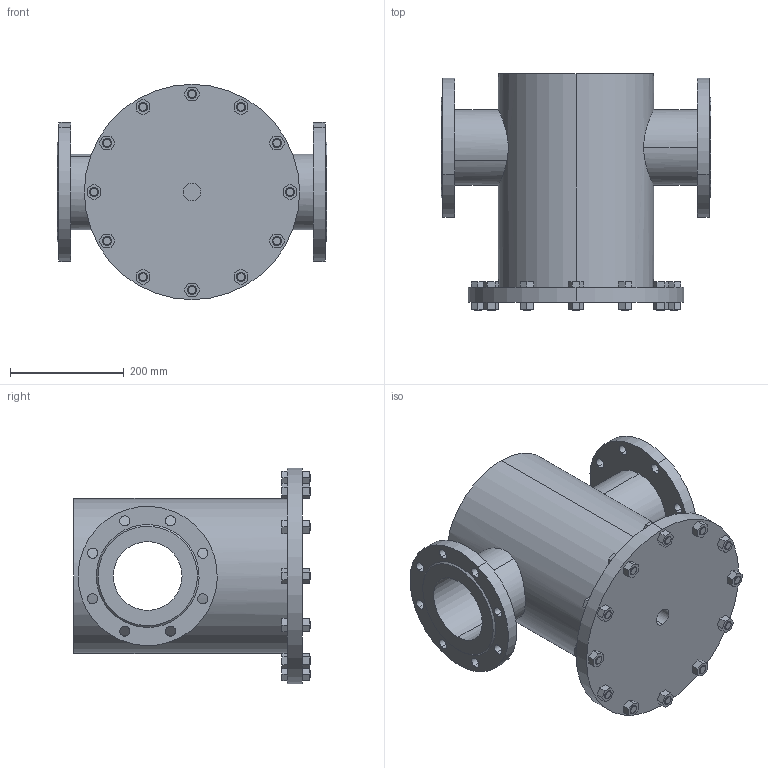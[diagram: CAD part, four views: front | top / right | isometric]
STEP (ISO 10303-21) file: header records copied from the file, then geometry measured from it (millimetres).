
FILE_DESCRIPTION (( 'STEP AP214' ), '1' );
FILE_NAME ('DN125 PN10.STEP', '2025-08-08T13:29:48', ( '' ), ( '' ), 'SwSTEP 2.0', 'SolidWorks 2023', '' );
FILE_SCHEMA (( 'AUTOMOTIVE_DESIGN' ));
Length unit declared in the file: millimetre
Products named in the file (1): DN125 PN10
Bounding box: 475 x 416 x 379 mm (x, y, z)
Volume: 23475477.6 mm3; surface area: 1017649.1 mm2
Topology: 1 solids, 1 shells, 272 faces, 672 edges, 448 vertices
Faces by surface type: plane 192, cylinder 52, cone 28
Entity records: 8837 total; most frequent: CARTESIAN_POINT 1697, DIRECTION 1370, ORIENTED_EDGE 1344, EDGE_CURVE 672, LINE 512, VECTOR 512, VERTEX_POINT 448, AXIS2_PLACEMENT_3D 429
